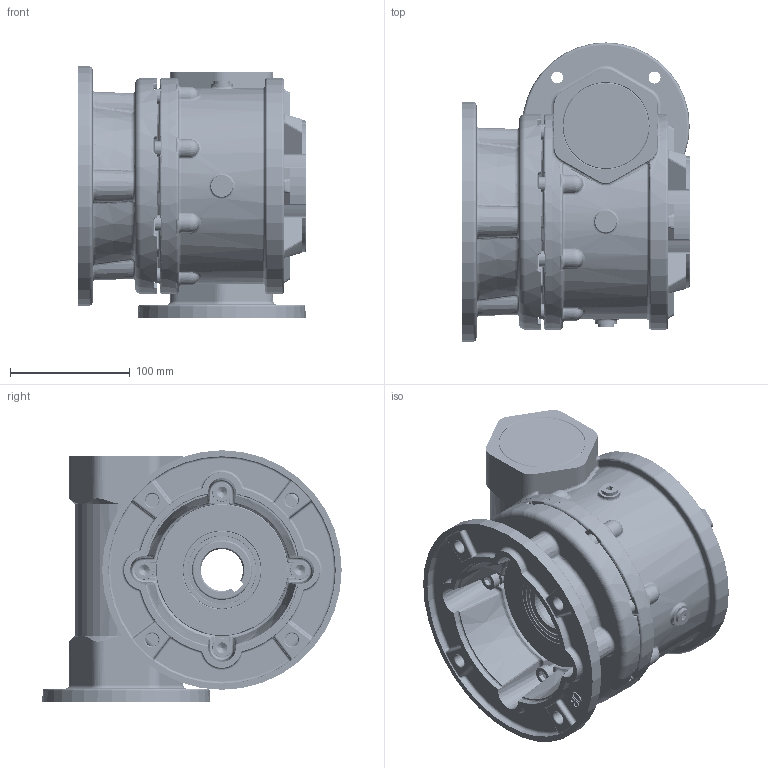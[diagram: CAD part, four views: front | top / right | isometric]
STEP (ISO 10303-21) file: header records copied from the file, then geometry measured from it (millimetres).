
FILE_DESCRIPTION (( 'STEP AP203' ), '1' );
FILE_NAME ('Sestava MRT80A-FF.STEP', '2005-08-15T10:44:56', ( '' ), ( '' ), 'SwSTEP 2.0', 'SolidWorks 2004146', '' );
FILE_SCHEMA (( 'CONFIG_CONTROL_DESIGN' ));
Products named in the file (1): Sestava MRT80A-FF
Bounding box: 190.1 x 250 x 210 mm (x, y, z)
Volume: 2608271.3 mm3; surface area: 725522.4 mm2
Topology: 36 solids, 36 shells, 4319 faces, 10634 edges, 6093 vertices
Faces by surface type: cylinder 1153, torus 1038, plane 756, cone 561, bspline 543, sphere 268
Entity records: 390422 total; most frequent: CARTESIAN_POINT 293208, DIRECTION 21021, ORIENTED_EDGE 20364, EDGE_CURVE 10182, AXIS2_PLACEMENT_3D 9301, VERTEX_POINT 5963, CIRCLE 5524, EDGE_LOOP 4547
